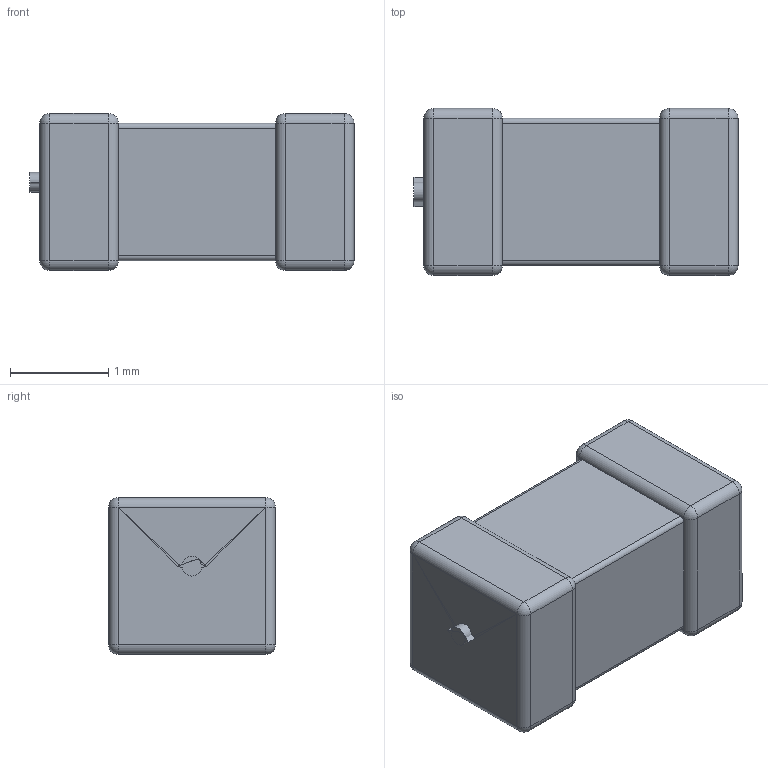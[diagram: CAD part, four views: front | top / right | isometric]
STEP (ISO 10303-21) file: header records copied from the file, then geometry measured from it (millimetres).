
FILE_DESCRIPTION (( 'STEP AP214' ), '1' );
FILE_NAME ( 'CAPPC320X170X160L80.STEP', '2021-10-06T06:48:59', ( '' ), ( '' ), '', '©2017 PCB Libraries, Inc.', '' );
FILE_SCHEMA (( 'AUTOMOTIVE_DESIGN' ));
Length unit declared in the file: millimetre
Products named in the file (1): CAPPC320X170X160L80
Bounding box: 3.3 x 1.7 x 1.6 mm (x, y, z)
Volume: 7.6 mm3; surface area: 33.4 mm2
Topology: 3 solids, 3 shells, 65 faces, 142 edges, 68 vertices
Faces by surface type: cylinder 30, plane 19, sphere 16
Entity records: 1859 total; most frequent: DIRECTION 318, CARTESIAN_POINT 260, ORIENTED_EDGE 252, AXIS2_PLACEMENT_3D 126, EDGE_CURVE 126, STYLED_ITEM 69, PRESENTATION_LAYER_ASSIGNMENT 69, MECHANICAL_DESIGN_GEOMETRIC_PRESENTATION_REPRESENTATION 69
